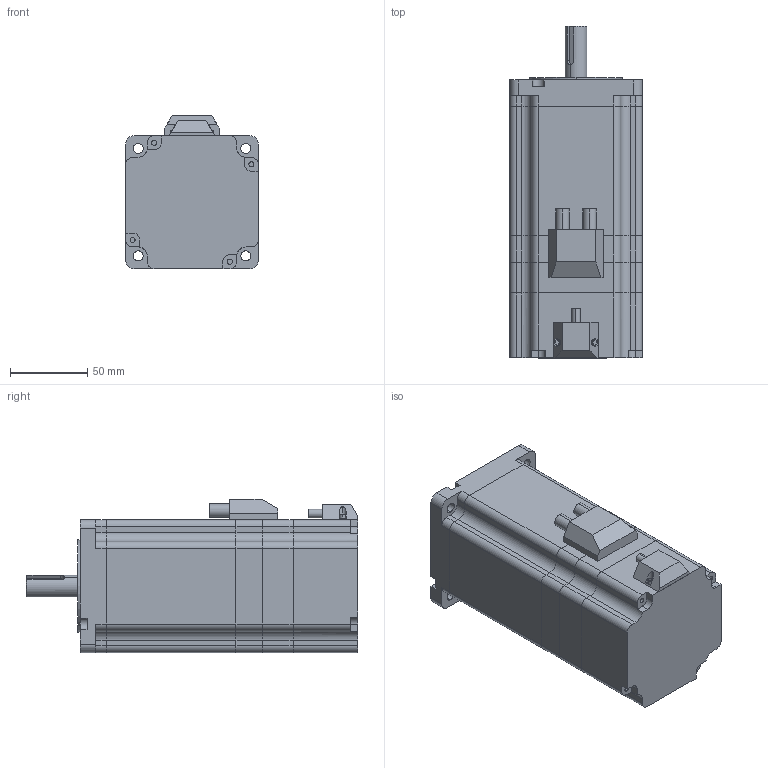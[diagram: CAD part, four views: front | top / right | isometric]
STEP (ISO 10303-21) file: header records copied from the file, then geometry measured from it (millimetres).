
FILE_DESCRIPTION (( 'STEP AP203' ), '1' );
FILE_NAME ('86HE2118-60A4-BR1435-002.STEP', '2025-06-23T02:19:56', ( '微软用户' ), ( '微软中国' ), 'SwSTEP 2.0', 'SolidWorks 2022', '' );
FILE_SCHEMA (( 'CONFIG_CONTROL_DESIGN' ));
Length unit declared in the file: millimetre
Products named in the file (8): 86珨极宒价陬HB; 001Bㄗ饜磁敕遠ㄘ; 086.001F(60止口）; 86HS118  84H; 14X5JX50酗粣; 86HE2118-60A4-BR1435-002; 闭环后罩（配合闭环）; 揤盄褲 邧謂
Assembly tree (7 placements, depth 2):
  86HE2118-60A4-BR1435-002
    86HS118  84H
    001Bㄗ饜磁敕遠ㄘ
    闭环后罩（配合闭环）
    揤盄褲 邧謂
    14X5JX50酗粣
    086.001F(60止口）
    86珨极宒价陬HB
Bounding box: 86 x 215 x 99.2 mm (x, y, z)
Volume: 1206301.5 mm3; surface area: 144644.9 mm2
Topology: 8 solids, 8 shells, 291 faces, 789 edges, 526 vertices
Faces by surface type: plane 150, cylinder 140, cone 1
Entity records: 10210 total; most frequent: DIRECTION 1665, CARTESIAN_POINT 1663, ORIENTED_EDGE 1578, EDGE_CURVE 789, AXIS2_PLACEMENT_3D 582, VERTEX_POINT 526, VECTOR 501, LINE 501
